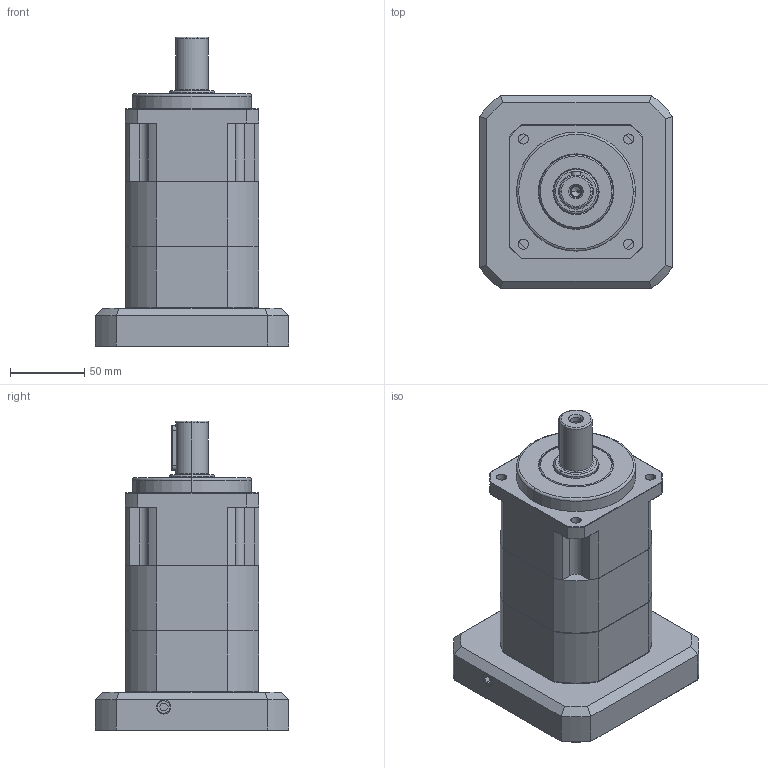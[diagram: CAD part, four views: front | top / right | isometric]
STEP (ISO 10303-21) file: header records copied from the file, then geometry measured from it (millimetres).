
FILE_DESCRIPTION (( 'STEP AP203' ), '1' );
FILE_NAME ('SB90A-2-110M8.step', '2022-04-06T06:35:51', ( 'lim' ), ( '' ), 'SwSTEP 2.0', 'SolidWorks 2020', '' );
FILE_SCHEMA (( 'CONFIG_CONTROL_DESIGN' ));
Length unit declared in the file: millimetre
Products named in the file (1): SB90A-2-110M8
Bounding box: 130 x 130 x 208 mm (x, y, z)
Volume: 1102608 mm3; surface area: 159840.4 mm2
Topology: 2 solids, 18 shells, 781 faces, 1819 edges, 1103 vertices
Faces by surface type: plane 327, cylinder 232, cone 183, torus 37, bspline 2
Entity records: 22720 total; most frequent: CARTESIAN_POINT 4534, DIRECTION 4025, ORIENTED_EDGE 3586, EDGE_CURVE 1793, AXIS2_PLACEMENT_3D 1562, VERTEX_POINT 1103, VECTOR 901, LINE 901
